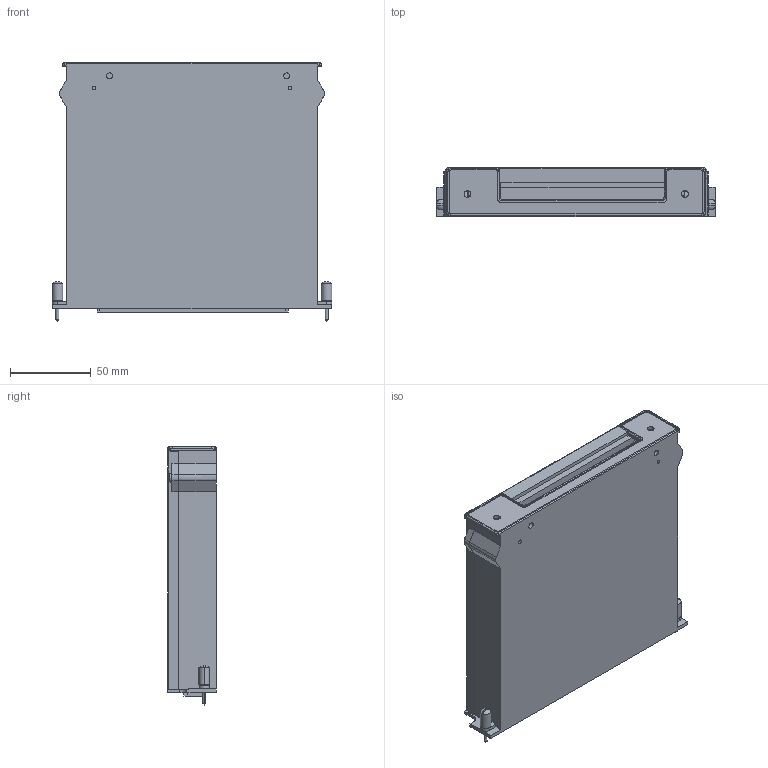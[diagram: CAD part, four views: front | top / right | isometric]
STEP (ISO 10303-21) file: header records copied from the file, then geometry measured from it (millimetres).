
FILE_DESCRIPTION((''),'2;1');
FILE_NAME('CU_TB-1337','2011-08-15T',('jjorden'),(''),'PRO/ENGINEER BY PARAMETRIC TECHNOLOGY CORPORATION, 2010230','PRO/ENGINEER BY PARAMETRIC TECHNOLOGY CORPORATION, 2010230','');
FILE_SCHEMA(('CONFIG_CONTROL_DESIGN'));
Length unit declared in the file: inch
Products named in the file (1): CU_TB-1337
Bounding box: 173.53 x 30.18 x 160.21 mm (x, y, z)
Volume: 204109.8 mm3; surface area: 140395.2 mm2
Topology: 5 solids, 10 shells, 533 faces, 1450 edges, 913 vertices
Faces by surface type: plane 317, cylinder 154, bspline 32, sphere 16, cone 8, torus 6
Entity records: 18282 total; most frequent: CARTESIAN_POINT 5176, ORIENTED_EDGE 2820, DIRECTION 2546, EDGE_CURVE 1410, VECTOR 938, LINE 938, VERTEX_POINT 924, AXIS2_PLACEMENT_3D 804
